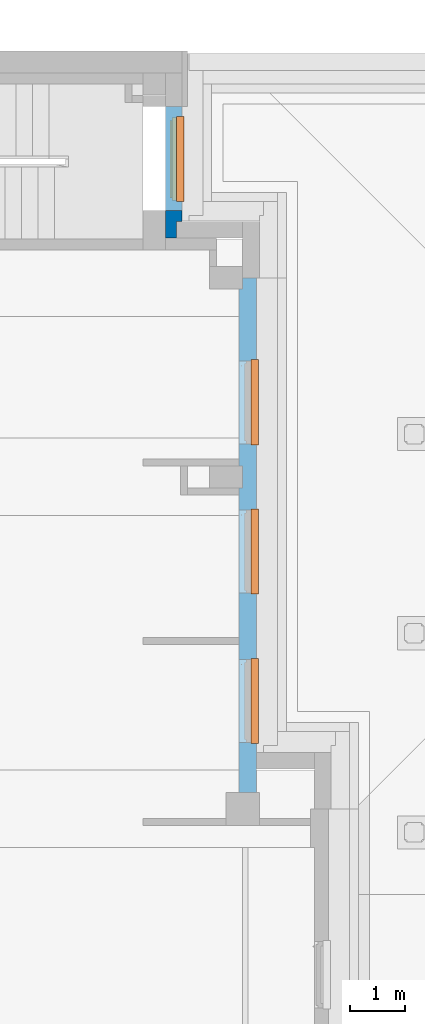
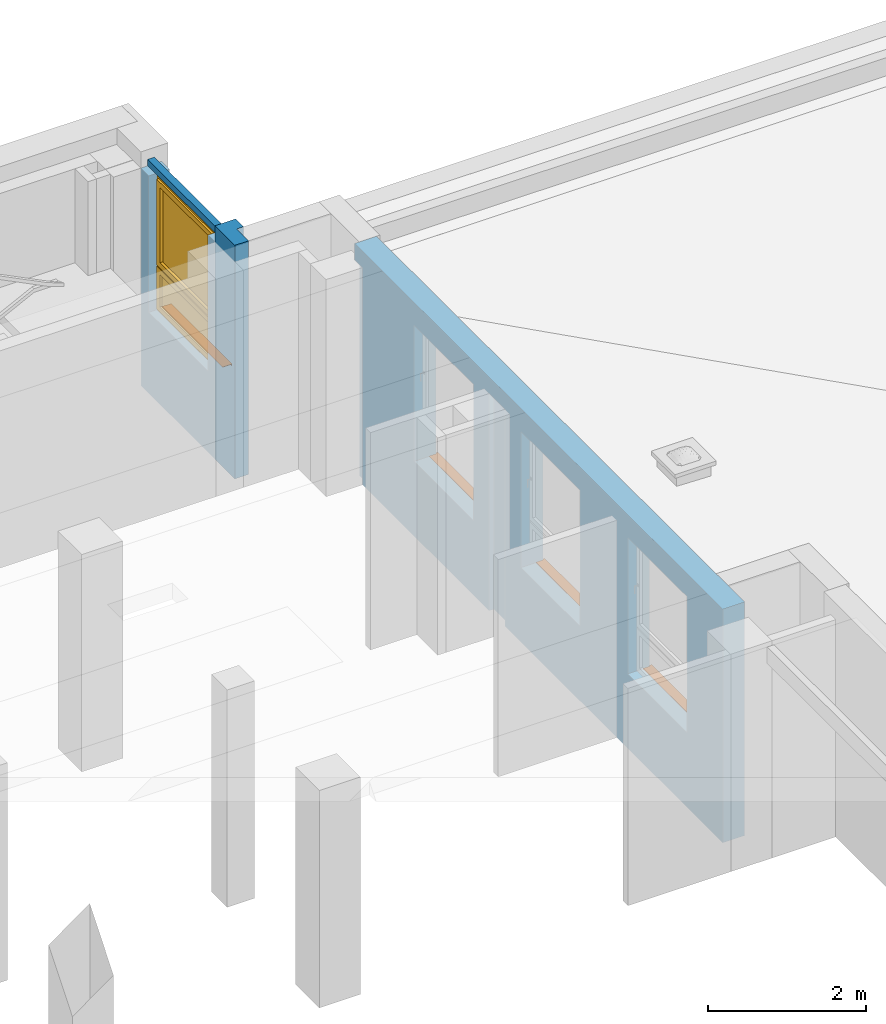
# One storey, part 46 of 50: 4 proxies, 1 wall, 1 window, 6 openings, plus 2 elements that do not belong to this part.
"""IFC4 building model written with IfcOpenShell, lengths in metres."""

from ifc_helpers import new_model, entity, si_unit, converted_unit, derived_unit, frame, frame_2d, origin, origin_with_axes, place, context, subcontext, project, spatial, polyline, rectangle, outline, extrude, clip, bounded_halfspace, closed_shell, open_shell, faceted_brep, surface_model, source, transform, mapped, material, layer, layer_set, layer_usage, element, fill, save


model = new_model("IFC4")

# Units and contexts
model_context = context("Model", 3, precision=1e-05, world=origin())
body_context = subcontext(model_context, "Body", "Model", "MODEL_VIEW")
ifc_project = project(units=[si_unit("LENGTHUNIT", "METRE"), si_unit("AREAUNIT", "SQUARE_METRE"), si_unit("VOLUMEUNIT", "CUBIC_METRE"), si_unit("MASSUNIT", "GRAM", prefix="KILO"), converted_unit("PLANEANGLEUNIT", "DEGREE", entity("IfcPlaneAngleMeasure", 0.0174532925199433), si_unit("PLANEANGLEUNIT", "RADIAN"), dimensions=[0, 0, 0, 0, 0, 0, 0]), derived_unit("THERMALTRANSMITTANCEUNIT", [(si_unit("POWERUNIT", "WATT"), 1), (si_unit("THERMODYNAMICTEMPERATUREUNIT", "KELVIN"), -1), (si_unit("LENGTHUNIT", "METRE"), -2)]), derived_unit("VOLUMETRICFLOWRATEUNIT", [(si_unit("LENGTHUNIT", "METRE"), 3), (converted_unit("TIMEUNIT", "hour", entity("IfcTimeMeasure", 3600.0), si_unit("TIMEUNIT", "SECOND"), dimensions=[0, 0, 1, 0, 0, 0, 0]), -1), (si_unit("LENGTHUNIT", "METRE"), -1)])], contexts=[model_context])

# Site, building, storey
site_placement = place(None, origin())
site = spatial("IfcSite", under=ifc_project, at=site_placement, Name="3. ASŘ", CompositionType="ELEMENT")
building_placement = place(site_placement, origin())
building = spatial("IfcBuilding", under=site, at=building_placement, Name="Pavilon C", CompositionType="ELEMENT")
storey_placement = place(building_placement, frame((0.0, 0.0, 3.6)))
storey = spatial("IfcBuildingStorey", under=building, at=storey_placement, Name="Půdorys 2.NP", CompositionType="ELEMENT", Elevation=3.6)

# Wall, openings, proxies
ifc_material_1 = material(Name="ZELEZOBETONOVÁ KCE")
ifc_layer_1 = layer(ifc_material_1, 0.32)
ifc_layer_set_1 = layer_set([ifc_layer_1])
ifc_layer_usage_1 = layer_usage(ifc_layer_set_1, "AXIS2", "POSITIVE", 0.0)
wall_1_placement = place(storey_placement, frame((50.2, 19.5, -0.1), z_axis=(0.0, 0.0, 1.0), x_axis=(0.0, 1.0, 0.0)))
wall_1 = element("IfcWall", 1, at=wall_1_placement, inside=storey, material=ifc_layer_usage_1, Name="ZELEZOBETONOVÁ KCE", context=body_context, shape_type="Clipping", body=[
    clip(clip(extrude(rectangle(XDim=9.3, YDim=0.32, at=frame_2d((4.65, 0.16), x_axis=(1.0, 0.0))), origin_with_axes(), (0.0, 0.0, 1.0), 3.6), bounded_halfspace(frame((9.2, 0.285, 3.35), z_axis=(0.0, 0.0, 1.0), x_axis=(-5.19711258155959e-14, 1.0, 0.0)), True, origin_with_axes(), polyline([(9.3, 0.25), (9.3, 0.32), (9.1, 0.32), (9.1, 0.25), (9.3, 0.25)]))), bounded_halfspace(frame((5.7, 0.285, 3.35), z_axis=(0.0, 0.0, 1.0), x_axis=(0.0, 1.0, 0.0)), True, origin_with_axes(), polyline([(5.9, 0.25), (5.9, 0.32), (5.5, 0.32), (5.5, 0.25), (5.9, 0.25)]))),
])
opening_1_placement = place(wall_1_placement, frame((6.29999999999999, 0.0, 1.15), z_axis=(0.0, 1.0, 0.0), x_axis=(0.0, 0.0, 1.0)))
opening_1 = element("IfcOpeningElement", 2, at=opening_1_placement, cuts=wall_1, Name="Okenní otvor", ObjectType="Opening", context=body_context, shape_type="SweptSolid", body=[
    extrude(outline(polyline([(0.0, 1.5), (2.1, 1.5), (2.1, 0.0), (0.0, 0.0), (0.0, 1.5)])), origin_with_axes(), (0.0, 0.0, 1.0), 0.32),
])
opening_2_placement = place(wall_1_placement, frame((3.59999999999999, 0.0, 1.15), z_axis=(0.0, 1.0, 0.0), x_axis=(0.0, 0.0, 1.0)))
opening_2 = element("IfcOpeningElement", 3, at=opening_2_placement, cuts=wall_1, Name="Okenní otvor", ObjectType="Opening", context=body_context, shape_type="SweptSolid", body=[
    extrude(outline(polyline([(0.0, 1.5), (2.1, 1.5), (2.1, 0.0), (0.0, 0.0), (0.0, 1.5)])), origin_with_axes(), (0.0, 0.0, 1.0), 0.32),
])
opening_3_placement = place(wall_1_placement, frame((0.899999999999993, 0.0, 1.15), z_axis=(0.0, 1.0, 0.0), x_axis=(0.0, 0.0, 1.0)))
opening_3 = element("IfcOpeningElement", 4, at=opening_3_placement, cuts=wall_1, Name="Okenní otvor", ObjectType="Opening", context=body_context, shape_type="SweptSolid", body=[
    extrude(outline(polyline([(0.0, 1.5), (2.1, 1.5), (2.1, 0.0), (0.0, 0.0), (0.0, 1.5)])), origin_with_axes(), (0.0, 0.0, 1.0), 0.32),
])
ifc_material_2 = material(Name="PLECH")
shared_shape_1 = source(origin_with_axes(), body_context, "Body", "Brep", [
    faceted_brep([(-7.27595761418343e-15, 1.45519152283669e-14, 0.0), (-7.27595761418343e-15, 0.100000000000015, 0.0), (-7.27595761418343e-15, 0.100000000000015, 0.005), (-7.27595761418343e-15, 1.45519152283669e-14, 0.005), (1.49999999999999, 1.45519152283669e-14, 0.0), (1.49999999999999, 1.45519152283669e-14, 0.005), (1.49999999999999, 0.100000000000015, 0.005), (1.49999999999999, 0.100000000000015, 0.0), (-0.0200000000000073, 1.45519152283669e-14, 0.0), (-0.0200000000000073, -0.0349999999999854, 0.0), (1.51999999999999, -0.0349999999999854, 0.0), (1.51999999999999, 1.45519152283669e-14, 0.0), (1.51999999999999, 1.45519152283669e-14, 0.005), (1.51999999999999, -0.0399999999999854, 0.005), (-0.0200000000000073, -0.0399999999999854, 0.005), (-0.0200000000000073, 1.45519152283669e-14, 0.005), (-0.0200000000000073, -0.0399999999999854, -0.025), (-0.0200000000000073, -0.0349999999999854, -0.025), (1.51999999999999, -0.0349999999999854, -0.025), (1.51999999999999, -0.0399999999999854, -0.025)], [[[0, 1, 2, 3]], [[4, 5, 6, 7]], [[1, 0, 8, 9, 10, 11, 4, 7]], [[2, 1, 7, 6]], [[3, 2, 6, 5, 12, 13, 14, 15]], [[8, 15, 14, 16, 17, 9]], [[11, 10, 18, 19, 13, 12]], [[15, 8, 0, 3]], [[5, 4, 11, 12]], [[16, 14, 13, 19]], [[17, 16, 19, 18]], [[9, 17, 18, 10]]], orient=[[False], [False], [False], [False], [False], [False], [False], [False], [False], [False], [False], [False]]),
    faceted_brep([(-0.0200000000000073, 1.45519152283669e-14, 0.0), (-0.0200000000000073, 0.100000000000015, 0.0), (-0.0200000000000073, 0.100000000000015, 0.005), (-0.0200000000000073, 1.45519152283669e-14, 0.005), (-7.27595761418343e-15, 1.45519152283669e-14, 0.0), (-7.27595761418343e-15, 1.45519152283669e-14, 0.005), (-7.27595761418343e-15, 0.100000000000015, 0.005), (-7.27595761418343e-15, 0.100000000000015, 0.0)], [[[0, 1, 2, 3]], [[4, 5, 6, 7]], [[1, 0, 4, 7]], [[2, 1, 7, 6]], [[3, 2, 6, 5]], [[0, 3, 5, 4]]], orient=[[False], [False], [False], [False], [False], [False]]),
    faceted_brep([(1.49999999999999, 1.45519152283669e-14, 0.0), (1.49999999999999, 0.100000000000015, 0.0), (1.49999999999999, 0.100000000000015, 0.005), (1.49999999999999, 1.45519152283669e-14, 0.005), (1.51999999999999, 1.45519152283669e-14, 0.0), (1.51999999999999, 1.45519152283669e-14, 0.005), (1.51999999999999, 0.100000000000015, 0.005), (1.51999999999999, 0.100000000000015, 0.0)], [[[0, 1, 2, 3]], [[4, 5, 6, 7]], [[1, 0, 4, 7]], [[2, 1, 7, 6]], [[3, 2, 6, 5]], [[0, 3, 5, 4]]], orient=[[False], [False], [False], [False], [False], [False]]),
])
proxy_1_placement = place(opening_1_placement, frame((0.0, 0.0, 0.0), z_axis=(1.0, 0.0, 0.0), x_axis=(0.0, 1.0, 0.0)))
proxy_1 = element("IfcBuildingElementProxy", 5, at=proxy_1_placement, inside=storey, material=ifc_material_2, Name="Parapet vnější", context=body_context, shape_type="MappedRepresentation", body=[
    mapped(shared_shape_1, transform((0.0, 0.0, 0.0), x_axis=(1.0, 0.0, 0.0), y_axis=(0.0, 1.0, 0.0), z_axis=(0.0, 0.0, 1.0), scale=1.0)),
])
fill(opening_1, proxy_1)
ifc_material_3 = material(Name="PLECH")
shared_shape_2 = source(origin_with_axes(), body_context, "Body", "Brep", [
    faceted_brep([(-7.27595761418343e-15, 1.45519152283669e-14, 0.0), (-7.27595761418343e-15, 0.100000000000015, 0.0), (-7.27595761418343e-15, 0.100000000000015, 0.005), (-7.27595761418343e-15, 1.45519152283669e-14, 0.005), (1.49999999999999, 1.45519152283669e-14, 0.0), (1.49999999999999, 1.45519152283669e-14, 0.005), (1.49999999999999, 0.100000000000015, 0.005), (1.49999999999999, 0.100000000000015, 0.0), (-0.0200000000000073, 1.45519152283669e-14, 0.0), (-0.0200000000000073, -0.0349999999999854, 0.0), (1.51999999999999, -0.0349999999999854, 0.0), (1.51999999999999, 1.45519152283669e-14, 0.0), (1.51999999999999, 1.45519152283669e-14, 0.005), (1.51999999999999, -0.0399999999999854, 0.005), (-0.0200000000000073, -0.0399999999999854, 0.005), (-0.0200000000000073, 1.45519152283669e-14, 0.005), (-0.0200000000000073, -0.0399999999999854, -0.025), (-0.0200000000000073, -0.0349999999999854, -0.025), (1.51999999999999, -0.0349999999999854, -0.025), (1.51999999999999, -0.0399999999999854, -0.025)], [[[0, 1, 2, 3]], [[4, 5, 6, 7]], [[1, 0, 8, 9, 10, 11, 4, 7]], [[2, 1, 7, 6]], [[3, 2, 6, 5, 12, 13, 14, 15]], [[8, 15, 14, 16, 17, 9]], [[11, 10, 18, 19, 13, 12]], [[15, 8, 0, 3]], [[5, 4, 11, 12]], [[16, 14, 13, 19]], [[17, 16, 19, 18]], [[9, 17, 18, 10]]], orient=[[False], [False], [False], [False], [False], [False], [False], [False], [False], [False], [False], [False]]),
    faceted_brep([(-0.0200000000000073, 1.45519152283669e-14, 0.0), (-0.0200000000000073, 0.100000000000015, 0.0), (-0.0200000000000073, 0.100000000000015, 0.005), (-0.0200000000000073, 1.45519152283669e-14, 0.005), (-7.27595761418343e-15, 1.45519152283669e-14, 0.0), (-7.27595761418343e-15, 1.45519152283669e-14, 0.005), (-7.27595761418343e-15, 0.100000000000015, 0.005), (-7.27595761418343e-15, 0.100000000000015, 0.0)], [[[0, 1, 2, 3]], [[4, 5, 6, 7]], [[1, 0, 4, 7]], [[2, 1, 7, 6]], [[3, 2, 6, 5]], [[0, 3, 5, 4]]], orient=[[False], [False], [False], [False], [False], [False]]),
    faceted_brep([(1.49999999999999, 1.45519152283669e-14, 0.0), (1.49999999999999, 0.100000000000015, 0.0), (1.49999999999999, 0.100000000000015, 0.005), (1.49999999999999, 1.45519152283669e-14, 0.005), (1.51999999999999, 1.45519152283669e-14, 0.0), (1.51999999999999, 1.45519152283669e-14, 0.005), (1.51999999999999, 0.100000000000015, 0.005), (1.51999999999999, 0.100000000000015, 0.0)], [[[0, 1, 2, 3]], [[4, 5, 6, 7]], [[1, 0, 4, 7]], [[2, 1, 7, 6]], [[3, 2, 6, 5]], [[0, 3, 5, 4]]], orient=[[False], [False], [False], [False], [False], [False]]),
])
proxy_2_placement = place(opening_2_placement, frame((0.0, 0.0, 0.0), z_axis=(1.0, 0.0, 0.0), x_axis=(0.0, 1.0, 0.0)))
proxy_2 = element("IfcBuildingElementProxy", 6, at=proxy_2_placement, inside=storey, material=ifc_material_3, Name="Parapet vnější", context=body_context, shape_type="MappedRepresentation", body=[
    mapped(shared_shape_2, transform((0.0, 0.0, 0.0), x_axis=(1.0, 0.0, 0.0), y_axis=(0.0, 1.0, 0.0), z_axis=(0.0, 0.0, 1.0), scale=1.0)),
])
fill(opening_2, proxy_2)
ifc_material_4 = material(Name="PLECH")
shared_shape_3 = source(origin_with_axes(), body_context, "Body", "Brep", [
    faceted_brep([(-7.27595761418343e-15, 1.45519152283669e-14, 0.0), (-7.27595761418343e-15, 0.100000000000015, 0.0), (-7.27595761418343e-15, 0.100000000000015, 0.005), (-7.27595761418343e-15, 1.45519152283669e-14, 0.005), (1.49999999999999, 1.45519152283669e-14, 0.0), (1.49999999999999, 1.45519152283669e-14, 0.005), (1.49999999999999, 0.100000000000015, 0.005), (1.49999999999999, 0.100000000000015, 0.0), (-0.0200000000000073, 1.45519152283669e-14, 0.0), (-0.0200000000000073, -0.0349999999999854, 0.0), (1.51999999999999, -0.0349999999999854, 0.0), (1.51999999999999, 1.45519152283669e-14, 0.0), (1.51999999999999, 1.45519152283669e-14, 0.005), (1.51999999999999, -0.0399999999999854, 0.005), (-0.0200000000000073, -0.0399999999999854, 0.005), (-0.0200000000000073, 1.45519152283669e-14, 0.005), (-0.0200000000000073, -0.0399999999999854, -0.025), (-0.0200000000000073, -0.0349999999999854, -0.025), (1.51999999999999, -0.0349999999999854, -0.025), (1.51999999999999, -0.0399999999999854, -0.025)], [[[0, 1, 2, 3]], [[4, 5, 6, 7]], [[1, 0, 8, 9, 10, 11, 4, 7]], [[2, 1, 7, 6]], [[3, 2, 6, 5, 12, 13, 14, 15]], [[8, 15, 14, 16, 17, 9]], [[11, 10, 18, 19, 13, 12]], [[15, 8, 0, 3]], [[5, 4, 11, 12]], [[16, 14, 13, 19]], [[17, 16, 19, 18]], [[9, 17, 18, 10]]], orient=[[False], [False], [False], [False], [False], [False], [False], [False], [False], [False], [False], [False]]),
    faceted_brep([(-0.0200000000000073, 1.45519152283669e-14, 0.0), (-0.0200000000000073, 0.100000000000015, 0.0), (-0.0200000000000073, 0.100000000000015, 0.005), (-0.0200000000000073, 1.45519152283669e-14, 0.005), (-7.27595761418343e-15, 1.45519152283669e-14, 0.0), (-7.27595761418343e-15, 1.45519152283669e-14, 0.005), (-7.27595761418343e-15, 0.100000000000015, 0.005), (-7.27595761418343e-15, 0.100000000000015, 0.0)], [[[0, 1, 2, 3]], [[4, 5, 6, 7]], [[1, 0, 4, 7]], [[2, 1, 7, 6]], [[3, 2, 6, 5]], [[0, 3, 5, 4]]], orient=[[False], [False], [False], [False], [False], [False]]),
    faceted_brep([(1.49999999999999, 1.45519152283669e-14, 0.0), (1.49999999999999, 0.100000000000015, 0.0), (1.49999999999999, 0.100000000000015, 0.005), (1.49999999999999, 1.45519152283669e-14, 0.005), (1.51999999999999, 1.45519152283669e-14, 0.0), (1.51999999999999, 1.45519152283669e-14, 0.005), (1.51999999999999, 0.100000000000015, 0.005), (1.51999999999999, 0.100000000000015, 0.0)], [[[0, 1, 2, 3]], [[4, 5, 6, 7]], [[1, 0, 4, 7]], [[2, 1, 7, 6]], [[3, 2, 6, 5]], [[0, 3, 5, 4]]], orient=[[False], [False], [False], [False], [False], [False]]),
])
proxy_3_placement = place(opening_3_placement, frame((0.0, 0.0, 0.0), z_axis=(1.0, 0.0, 0.0), x_axis=(0.0, 1.0, 0.0)))
proxy_3 = element("IfcBuildingElementProxy", 7, at=proxy_3_placement, inside=storey, material=ifc_material_4, Name="Parapet vnější", context=body_context, shape_type="MappedRepresentation", body=[
    mapped(shared_shape_3, transform((0.0, 0.0, 0.0), x_axis=(1.0, 0.0, 0.0), y_axis=(0.0, 1.0, 0.0), z_axis=(0.0, 0.0, 1.0), scale=1.0)),
])
fill(opening_3, proxy_3)

# Wall, openings
ifc_material_5 = material(Name="ZDIVO Z CDm")
wall_2_placement = place(storey_placement, frame((48.55, 29.52, -0.1)))
wall_2 = element("IfcWall", 8, at=wall_2_placement, inside=storey, material=ifc_material_5, Name="ZDIVO Z CDm", context=body_context, shape_type="Brep", body=[
    faceted_brep([(0.0, 2.37499999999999, 3.45), (0.0, 0.499999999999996, 3.45), (0.1, 0.499999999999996, 3.45), (0.1, 2.37499999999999, 3.45), (0.1, 2.37499999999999, 3.35), (0.1, 0.499999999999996, 3.35), (0.0, 0.499999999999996, 3.35), (0.0, 2.37499999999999, 3.35), (0.3, 0.499999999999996, 3.45), (0.3, 2.37499999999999, 3.45), (0.2, 2.37499999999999, 3.45), (0.2, 0.499999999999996, 3.45), (0.2, 0.499999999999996, 3.35), (0.2, 2.37499999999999, 3.35), (0.3, 2.37499999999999, 3.35), (0.3, 0.499999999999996, 3.35), (0.2, 0.300000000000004, 0.0), (0.2, 0.0, 0.0), (0.2, 0.0, 3.6), (0.2, 0.300000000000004, 3.6), (0.0, 0.0, 0.0), (0.0, 0.0, 3.6), (0.0, 2.37499999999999, 3.6), (0.0, 2.37499999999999, 0.0), (0.3, 2.37499999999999, 0.0), (0.3, 2.37499999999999, 3.6), (0.3, 0.300000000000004, 0.0), (0.3, 0.300000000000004, 3.6)], [[[0, 1, 2, 3]], [[4, 5, 6, 7]], [[1, 6, 5, 2]], [[2, 5, 4, 3]], [[8, 9, 10, 11]], [[12, 13, 14, 15]], [[11, 12, 15, 8]], [[10, 13, 12, 11]], [[16, 17, 18, 19]], [[17, 20, 21, 18]], [[0, 22, 21, 20, 23, 7, 6, 1]], [[3, 4, 7, 23, 24, 14, 13, 10, 9, 25, 22, 0]], [[8, 15, 14, 24, 26, 27, 25, 9]], [[26, 16, 19, 27]], [[27, 19, 18, 21, 22, 25]], [[16, 26, 24, 23, 20, 17]]], orient=[[False], [False], [False], [False], [False], [False], [False], [False], [False], [False], [False], [False], [False], [False], [False], [False]]),
])
opening_4_placement = place(wall_2_placement, frame((0.3, 0.499999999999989, 3.45), z_axis=(-1.0, 0.0, 0.0), x_axis=(0.0, 0.0, 1.0)))
element("IfcOpeningElement", 9, at=opening_4_placement, cuts=wall_2, Name="Okenní otvor", ObjectType="Opening", context=body_context, shape_type="SweptSolid", body=[
    extrude(outline(polyline([(0.0, 1.875), (0.15, 1.875), (0.15, 0.0), (0.0, 0.0), (0.0, 1.875)])), origin_with_axes(), (0.0, 0.0, 1.0), 0.3),
])
opening_5_placement = place(wall_2_placement, frame((0.3, 0.499999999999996, 0.0), z_axis=(-1.0, 0.0, 0.0), x_axis=(0.0, 0.0, 1.0)))
element("IfcOpeningElement", 10, at=opening_5_placement, cuts=wall_2, Name="Okenní otvor", ObjectType="Opening", context=body_context, shape_type="SweptSolid", body=[
    extrude(outline(polyline([(0.0, 1.87499999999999), (3.35, 1.87499999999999), (3.35, 0.0), (0.0, 0.0), (0.0, 1.87499999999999)])), origin_with_axes(), (0.0, 0.0, 1.0), 0.3),
])

# Wall, opening, window, proxy
ifc_material_6 = material(Name="YTONG 300")
ifc_layer_2 = layer(ifc_material_6, 0.3)
ifc_layer_set_2 = layer_set([ifc_layer_2])
ifc_layer_usage_2 = layer_usage(ifc_layer_set_2, "AXIS2", "POSITIVE", 0.0)
wall_3_placement = place(storey_placement, frame((48.85, 30.02, -0.1), z_axis=(0.0, 0.0, 1.0), x_axis=(0.0, 1.0, 0.0)))
wall_3 = element("IfcWall", 11, at=wall_3_placement, inside=storey, material=ifc_layer_usage_2, Name="YTONG 300", context=body_context, shape_type="SweptSolid", body=[
    extrude(rectangle(XDim=1.875, YDim=0.3, at=frame_2d((0.937500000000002, 0.15), x_axis=(1.0, 0.0))), origin_with_axes(), (0.0, 0.0, 1.0), 3.35),
])
opening_6_placement = place(wall_3_placement, frame((0.174999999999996, 0.0, 1.25), z_axis=(0.0, 1.0, 0.0), x_axis=(0.0, 0.0, 1.0)))
opening_6 = element("IfcOpeningElement", 12, at=opening_6_placement, cuts=wall_3, Name="Okenní otvor", ObjectType="Opening", context=body_context, shape_type="SweptSolid", body=[
    extrude(outline(polyline([(0.0, 1.5), (2.1, 1.5), (2.1, 0.0), (0.0, 0.0), (0.0, 1.5)])), origin_with_axes(), (0.0, 0.0, 1.0), 0.3),
])
shared_shape_4 = source(origin_with_axes(), body_context, "Body", "SurfaceModel", [
    surface_model("IfcShellBasedSurfaceModel", [(0.0, 0.112, 2.1), (0.0, 0.112, -5.02105187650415e-18), (0.08, 0.112, -5.02105187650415e-18), (0.08, 0.112, 2.1), (0.0, 0.03, 5.02105187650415e-18), (0.0, 0.0300000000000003, 2.1), (0.08, 0.0300000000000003, 2.1), (0.08, 0.03, 5.02105187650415e-18)], [closed_shell([[[0, 1, 2, 3]], [[4, 5, 6, 7]], [[1, 0, 5, 4]], [[2, 1, 4, 7]], [[3, 2, 7, 6]], [[0, 3, 6, 5]]], orient=[[False], [False], [False], [False], [False], [False]])]),
    surface_model("IfcShellBasedSurfaceModel", [(1.42, 0.112, 2.1), (1.42, 0.112, -5.02105187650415e-18), (1.5, 0.112, -5.02105187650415e-18), (1.5, 0.112, 2.1), (1.42, 0.03, 5.02105187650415e-18), (1.42, 0.0300000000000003, 2.1), (1.5, 0.0300000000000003, 2.1), (1.5, 0.03, 5.02105187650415e-18)], [closed_shell([[[0, 1, 2, 3]], [[4, 5, 6, 7]], [[1, 0, 5, 4]], [[2, 1, 4, 7]], [[3, 2, 7, 6]], [[0, 3, 6, 5]]], orient=[[False], [False], [False], [False], [False], [False]])]),
    surface_model("IfcShellBasedSurfaceModel", [(0.08, 0.112, 0.08), (0.08, 0.112, -5.02105187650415e-18), (1.42, 0.112, -5.02105187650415e-18), (1.42, 0.112, 0.08), (0.08, 0.03, 5.02105187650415e-18), (0.08, 0.03, 0.08), (1.42, 0.03, 0.08), (1.42, 0.03, 5.02105187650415e-18)], [closed_shell([[[0, 1, 2, 3]], [[4, 5, 6, 7]], [[1, 0, 5, 4]], [[2, 1, 4, 7]], [[3, 2, 7, 6]], [[0, 3, 6, 5]]], orient=[[False], [False], [False], [False], [False], [False]])]),
    surface_model("IfcShellBasedSurfaceModel", [(0.08, 0.112, 2.1), (0.08, 0.112, 2.02), (1.42, 0.112, 2.02), (1.42, 0.112, 2.1), (0.08, 0.0300000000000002, 2.02), (0.08, 0.0300000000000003, 2.1), (1.42, 0.0300000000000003, 2.1), (1.42, 0.0300000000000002, 2.02)], [closed_shell([[[0, 1, 2, 3]], [[4, 5, 6, 7]], [[1, 0, 5, 4]], [[2, 1, 4, 7]], [[3, 2, 7, 6]], [[0, 3, 6, 5]]], orient=[[False], [False], [False], [False], [False], [False]])]),
    surface_model("IfcShellBasedSurfaceModel", [(0.08, 0.112, 0.76), (0.08, 0.112, 0.68), (1.42, 0.112, 0.68), (1.42, 0.112, 0.76), (0.08, 0.0300000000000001, 0.68), (0.08, 0.0300000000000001, 0.76), (1.42, 0.0300000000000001, 0.76), (1.42, 0.0300000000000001, 0.68)], [closed_shell([[[0, 1, 2, 3]], [[4, 5, 6, 7]], [[1, 0, 5, 4]], [[2, 1, 4, 7]], [[3, 2, 7, 6]], [[0, 3, 6, 5]]], orient=[[False], [False], [False], [False], [False], [False]])]),
    surface_model("IfcShellBasedSurfaceModel", [(0.05, 0.0850000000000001, 0.71), (0.05, 0.085, 0.05), (0.13, 0.085, 0.05), (0.13, 0.0850000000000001, 0.71), (0.05, 3.5527136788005e-18, 0.05), (0.05, 8.88178419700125e-17, 0.71), (0.13, 8.88178419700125e-17, 0.71), (0.13, 3.5527136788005e-18, 0.05)], [closed_shell([[[0, 1, 2, 3]], [[4, 5, 6, 7]], [[1, 0, 5, 4]], [[2, 1, 4, 7]], [[3, 2, 7, 6]], [[0, 3, 6, 5]]], orient=[[False], [False], [False], [False], [False], [False]])]),
    surface_model("IfcShellBasedSurfaceModel", [(1.37, 0.0850000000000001, 0.71), (1.37, 0.085, 0.05), (1.45, 0.085, 0.05), (1.45, 0.0850000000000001, 0.71), (1.37, 3.5527136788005e-18, 0.05), (1.37, 8.88178419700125e-17, 0.71), (1.45, 8.88178419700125e-17, 0.71), (1.45, 3.5527136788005e-18, 0.05)], [closed_shell([[[0, 1, 2, 3]], [[4, 5, 6, 7]], [[1, 0, 5, 4]], [[2, 1, 4, 7]], [[3, 2, 7, 6]], [[0, 3, 6, 5]]], orient=[[False], [False], [False], [False], [False], [False]])]),
    surface_model("IfcShellBasedSurfaceModel", [(0.13, 0.085, 0.13), (0.13, 0.085, 0.05), (1.37, 0.085, 0.05), (1.37, 0.085, 0.13), (0.13, 3.5527136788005e-18, 0.05), (0.13, 1.77635683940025e-17, 0.13), (1.37, 1.77635683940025e-17, 0.13), (1.37, 3.5527136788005e-18, 0.05)], [closed_shell([[[0, 1, 2, 3]], [[4, 5, 6, 7]], [[1, 0, 5, 4]], [[2, 1, 4, 7]], [[3, 2, 7, 6]], [[0, 3, 6, 5]]], orient=[[False], [False], [False], [False], [False], [False]])]),
    surface_model("IfcShellBasedSurfaceModel", [(0.13, 0.0850000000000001, 0.71), (0.13, 0.0850000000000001, 0.63), (1.37, 0.0850000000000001, 0.63), (1.37, 0.0850000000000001, 0.71), (0.13, 7.46069872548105e-17, 0.63), (0.13, 8.88178419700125e-17, 0.71), (1.37, 8.88178419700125e-17, 0.71), (1.37, 7.46069872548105e-17, 0.63)], [closed_shell([[[0, 1, 2, 3]], [[4, 5, 6, 7]], [[1, 0, 5, 4]], [[2, 1, 4, 7]], [[3, 2, 7, 6]], [[0, 3, 6, 5]]], orient=[[False], [False], [False], [False], [False], [False]])]),
    surface_model("IfcShellBasedSurfaceModel", [(0.05, 0.0850000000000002, 2.05), (0.05, 0.0850000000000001, 0.73), (0.13, 0.0850000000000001, 0.73), (0.13, 0.0850000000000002, 2.05), (0.05, 8.88178419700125e-17, 0.73), (0.05, 2.45137243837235e-16, 2.05), (0.13, 2.45137243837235e-16, 2.05), (0.13, 8.88178419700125e-17, 0.73)], [closed_shell([[[0, 1, 2, 3]], [[4, 5, 6, 7]], [[1, 0, 5, 4]], [[2, 1, 4, 7]], [[3, 2, 7, 6]], [[0, 3, 6, 5]]], orient=[[False], [False], [False], [False], [False], [False]])]),
    surface_model("IfcShellBasedSurfaceModel", [(1.37, 0.0850000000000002, 2.05), (1.37, 0.0850000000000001, 0.73), (1.45, 0.0850000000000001, 0.73), (1.45, 0.0850000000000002, 2.05), (1.37, 8.88178419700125e-17, 0.73), (1.37, 2.45137243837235e-16, 2.05), (1.45, 2.45137243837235e-16, 2.05), (1.45, 8.88178419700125e-17, 0.73)], [closed_shell([[[0, 1, 2, 3]], [[4, 5, 6, 7]], [[1, 0, 5, 4]], [[2, 1, 4, 7]], [[3, 2, 7, 6]], [[0, 3, 6, 5]]], orient=[[False], [False], [False], [False], [False], [False]])]),
    surface_model("IfcShellBasedSurfaceModel", [(0.13, 0.0850000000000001, 0.81), (0.13, 0.0850000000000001, 0.73), (1.37, 0.0850000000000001, 0.73), (1.37, 0.0850000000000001, 0.81), (0.13, 8.88178419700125e-17, 0.73), (0.13, 1.03028696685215e-16, 0.81), (1.37, 1.03028696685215e-16, 0.81), (1.37, 8.88178419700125e-17, 0.73)], [closed_shell([[[0, 1, 2, 3]], [[4, 5, 6, 7]], [[1, 0, 5, 4]], [[2, 1, 4, 7]], [[3, 2, 7, 6]], [[0, 3, 6, 5]]], orient=[[False], [False], [False], [False], [False], [False]])]),
    surface_model("IfcShellBasedSurfaceModel", [(0.13, 0.0850000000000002, 2.05), (0.13, 0.0850000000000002, 1.97), (1.37, 0.0850000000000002, 1.97), (1.37, 0.0850000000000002, 2.05), (0.13, 2.38031816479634e-16, 1.97), (0.13, 2.52242671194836e-16, 2.05), (1.37, 2.52242671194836e-16, 2.05), (1.37, 2.38031816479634e-16, 1.97)], [closed_shell([[[0, 1, 2, 3]], [[4, 5, 6, 7]], [[1, 0, 5, 4]], [[2, 1, 4, 7]], [[3, 2, 7, 6]], [[0, 3, 6, 5]]], orient=[[False], [False], [False], [False], [False], [False]])]),
    surface_model("IfcShellBasedSurfaceModel", [(0.13, 0.0525000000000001, 0.63), (0.13, 0.0525, 0.13), (1.37, 0.0525, 0.13), (1.37, 0.0525000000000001, 0.63), (0.13, 0.0325, 0.13), (0.13, 0.0325000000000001, 0.63), (1.37, 0.0325000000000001, 0.63), (1.37, 0.0325, 0.13)], [closed_shell([[[0, 1, 2, 3]], [[4, 5, 6, 7]], [[1, 0, 5, 4]], [[2, 1, 4, 7]], [[3, 2, 7, 6]], [[0, 3, 6, 5]]], orient=[[False], [False], [False], [False], [False], [False]])]),
    surface_model("IfcShellBasedSurfaceModel", [(0.13, 0.0425000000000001, 0.81), (1.37, 0.0425000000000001, 0.81), (1.37, 0.0425000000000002, 1.97), (0.13, 0.0425000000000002, 1.97)], [open_shell([[[0, 1, 2, 3]]], orient=[[False]])]),
])
window_placement = place(opening_6_placement, frame((0.0, 1.49999999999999, 0.212000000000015), z_axis=(1.0, 0.0, 0.0), x_axis=(0.0, -1.0, 2.44929359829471e-16)))
window = element("IfcWindow", 13, at=window_placement, inside=storey, Name="I.OP11", OverallHeight=2.1, OverallWidth=1.5, PartitioningType="USERDEFINED", PredefinedType="WINDOW", context=body_context, shape_type="MappedRepresentation", body=[
    mapped(shared_shape_4, transform((0.0, 0.0, 0.0), x_axis=(1.0, 0.0, 0.0), y_axis=(0.0, 1.0, 0.0), z_axis=(0.0, 0.0, 1.0), scale=1.0)),
])
fill(opening_6, window)
ifc_material_7 = material(Name="HLINÍKOVÝ PLECH ELOXOVANÝ")
shared_shape_5 = source(origin_with_axes(), body_context, "Body", "Brep", [
    faceted_brep([(-7.27595761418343e-15, 1.45519152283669e-14, 0.0), (-7.27595761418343e-15, 0.100000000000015, 0.0), (-7.27595761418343e-15, 0.100000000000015, 0.005), (-7.27595761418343e-15, 1.45519152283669e-14, 0.005), (1.49999999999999, 1.45519152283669e-14, 0.0), (1.49999999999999, 1.45519152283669e-14, 0.005), (1.49999999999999, 0.100000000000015, 0.005), (1.49999999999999, 0.100000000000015, 0.0), (-0.0200000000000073, 1.45519152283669e-14, 0.0), (-0.0200000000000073, -0.0349999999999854, 0.0), (1.51999999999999, -0.0349999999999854, 0.0), (1.51999999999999, 1.45519152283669e-14, 0.0), (1.51999999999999, 1.45519152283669e-14, 0.005), (1.51999999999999, -0.0399999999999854, 0.005), (-0.0200000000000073, -0.0399999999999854, 0.005), (-0.0200000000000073, 1.45519152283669e-14, 0.005), (-0.0200000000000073, -0.0399999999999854, -0.025), (-0.0200000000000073, -0.0349999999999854, -0.025), (1.51999999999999, -0.0349999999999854, -0.025), (1.51999999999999, -0.0399999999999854, -0.025)], [[[0, 1, 2, 3]], [[4, 5, 6, 7]], [[1, 0, 8, 9, 10, 11, 4, 7]], [[2, 1, 7, 6]], [[3, 2, 6, 5, 12, 13, 14, 15]], [[8, 15, 14, 16, 17, 9]], [[11, 10, 18, 19, 13, 12]], [[15, 8, 0, 3]], [[5, 4, 11, 12]], [[16, 14, 13, 19]], [[17, 16, 19, 18]], [[9, 17, 18, 10]]], orient=[[False], [False], [False], [False], [False], [False], [False], [False], [False], [False], [False], [False]]),
    faceted_brep([(-0.0200000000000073, 1.45519152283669e-14, 0.0), (-0.0200000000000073, 0.100000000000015, 0.0), (-0.0200000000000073, 0.100000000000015, 0.005), (-0.0200000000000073, 1.45519152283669e-14, 0.005), (-7.27595761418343e-15, 1.45519152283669e-14, 0.0), (-7.27595761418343e-15, 1.45519152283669e-14, 0.005), (-7.27595761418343e-15, 0.100000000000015, 0.005), (-7.27595761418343e-15, 0.100000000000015, 0.0)], [[[0, 1, 2, 3]], [[4, 5, 6, 7]], [[1, 0, 4, 7]], [[2, 1, 7, 6]], [[3, 2, 6, 5]], [[0, 3, 5, 4]]], orient=[[False], [False], [False], [False], [False], [False]]),
    faceted_brep([(1.49999999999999, 1.45519152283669e-14, 0.0), (1.49999999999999, 0.100000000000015, 0.0), (1.49999999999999, 0.100000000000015, 0.005), (1.49999999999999, 1.45519152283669e-14, 0.005), (1.51999999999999, 1.45519152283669e-14, 0.0), (1.51999999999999, 1.45519152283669e-14, 0.005), (1.51999999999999, 0.100000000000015, 0.005), (1.51999999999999, 0.100000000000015, 0.0)], [[[0, 1, 2, 3]], [[4, 5, 6, 7]], [[1, 0, 4, 7]], [[2, 1, 7, 6]], [[3, 2, 6, 5]], [[0, 3, 5, 4]]], orient=[[False], [False], [False], [False], [False], [False]]),
])
proxy_4_placement = place(opening_6_placement, frame((0.0, 0.0, 0.0), z_axis=(1.0, 0.0, 0.0), x_axis=(0.0, 1.0, 0.0)))
proxy_4 = element("IfcBuildingElementProxy", 14, at=proxy_4_placement, inside=storey, material=ifc_material_7, Name="Parapet vnější", context=body_context, shape_type="MappedRepresentation", body=[
    mapped(shared_shape_5, transform((0.0, 0.0, 0.0), x_axis=(1.0, 0.0, 0.0), y_axis=(0.0, 1.0, 0.0), z_axis=(0.0, 0.0, 1.0), scale=1.0)),
])
fill(opening_6, proxy_4)

save(model, "model.ifc")
